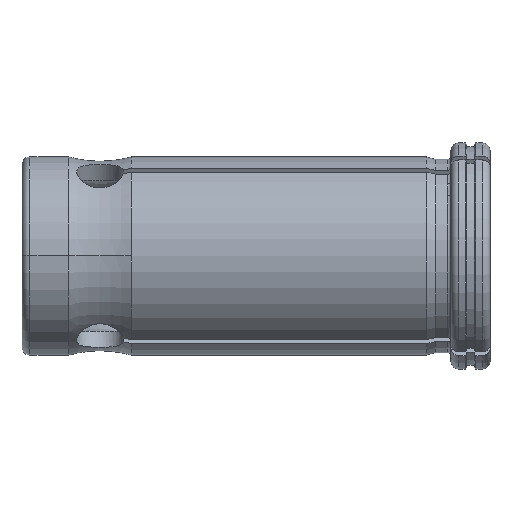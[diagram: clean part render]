
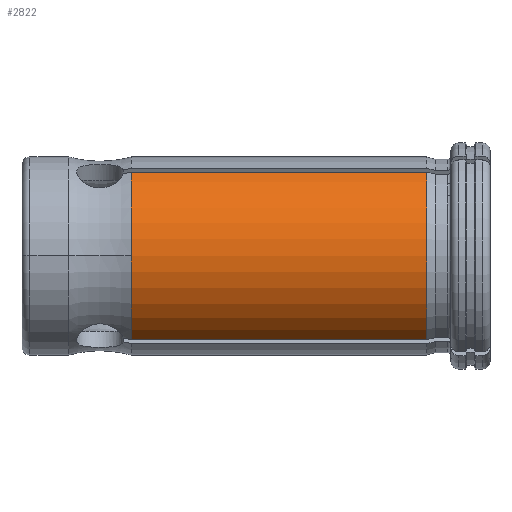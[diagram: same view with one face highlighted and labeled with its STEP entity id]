
A CAD part, top view. The second image highlights one B-rep face of the part: STEP entity #2822.
In plain terms, the highlighted cylindrical face has radius 12.7 mm (diameter 25.4 mm), a partial arc.
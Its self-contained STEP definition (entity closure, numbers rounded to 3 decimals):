
#990=CARTESIAN_POINT('',(-8.12,-10.74,6.778));
#992=CARTESIAN_POINT('',(-8.12,10.74,6.778));
#1036=DIRECTION('',(1.,0.,0.));
#1037=VECTOR('',#1036,37.88);
#1038=CARTESIAN_POINT('',(-46.,-10.74,6.778));
#1039=LINE('',#1038,#1037);
#1040=DIRECTION('',(1.,0.,0.));
#1041=VECTOR('',#1040,37.88);
#1042=CARTESIAN_POINT('',(-46.,10.74,6.778));
#1043=LINE('',#1042,#1041);
#1044=CARTESIAN_POINT('',(-8.12,0.,0.));
#1045=DIRECTION('',(1.,0.,0.));
#1046=DIRECTION('',(0.,0.846,0.534));
#1047=AXIS2_PLACEMENT_3D('',#1044,#1045,#1046);
#1076=CARTESIAN_POINT('',(-46.,0.,0.));
#1077=DIRECTION('',(1.,0.,0.));
#1078=DIRECTION('',(0.,0.846,0.534));
#1079=AXIS2_PLACEMENT_3D('',#1076,#1077,#1078);
#1272=CARTESIAN_POINT('',(-46.,0.,0.));
#1273=DIRECTION('',(-1.,0.,0.));
#1274=DIRECTION('',(0.,-0.846,0.534));
#1275=AXIS2_PLACEMENT_3D('',#1272,#1273,#1274);
#1584=CARTESIAN_POINT('',(-46.,0.,12.7));
#1586=VERTEX_POINT('',#1584);
#1734=VERTEX_POINT('',#992);
#1737=CARTESIAN_POINT('',(-46.,10.74,6.778));
#1738=VERTEX_POINT('',#1737);
#1804=VERTEX_POINT('',#990);
#1806=CARTESIAN_POINT('',(-46.,-10.74,6.778));
#1807=VERTEX_POINT('',#1806);
#2806=CARTESIAN_POINT('',(-63.,0.,0.));
#2807=DIRECTION('',(1.,0.,0.));
#2808=DIRECTION('',(0.,0.,1.));
#2809=AXIS2_PLACEMENT_3D('',#2806,#2807,#2808);
#2810=CYLINDRICAL_SURFACE('',#2809,12.7);
#2812=ORIENTED_EDGE('',*,*,#2811,.F.);
#2814=ORIENTED_EDGE('',*,*,#2813,.T.);
#2816=ORIENTED_EDGE('',*,*,#2815,.F.);
#2818=ORIENTED_EDGE('',*,*,#2817,.T.);
#2819=ORIENTED_EDGE('',*,*,#2770,.T.);
#2820=EDGE_LOOP('',(#2812,#2814,#2816,#2818,#2819));
#2821=FACE_OUTER_BOUND('',#2820,.F.);
#2822=ADVANCED_FACE('',(#2821),#2810,.T.);
#1048=CIRCLE('',#1047,12.7);
#1080=CIRCLE('',#1079,12.7);
#1276=CIRCLE('',#1275,12.7);
#2770=EDGE_CURVE('',#1734,#1804,#1048,.T.);
#2811=EDGE_CURVE('',#1807,#1804,#1039,.T.);
#2813=EDGE_CURVE('',#1807,#1586,#1276,.T.);
#2815=EDGE_CURVE('',#1738,#1586,#1080,.T.);
#2817=EDGE_CURVE('',#1738,#1734,#1043,.T.);
